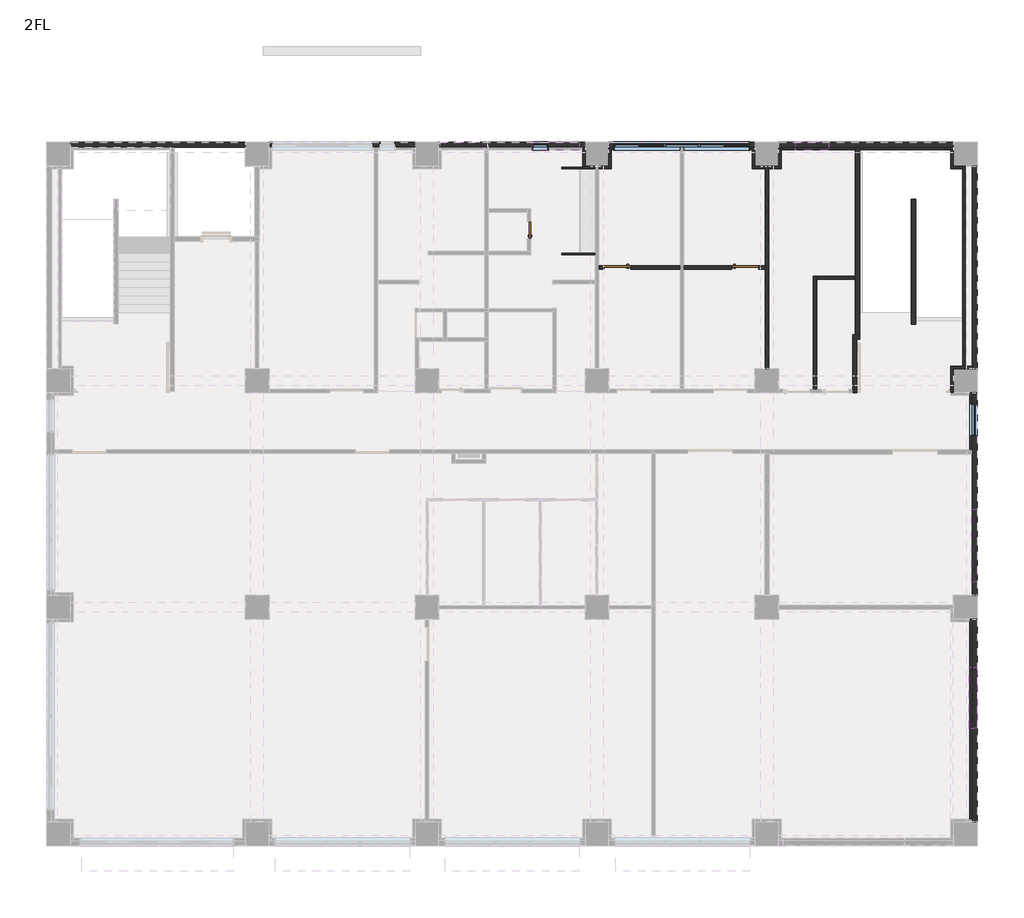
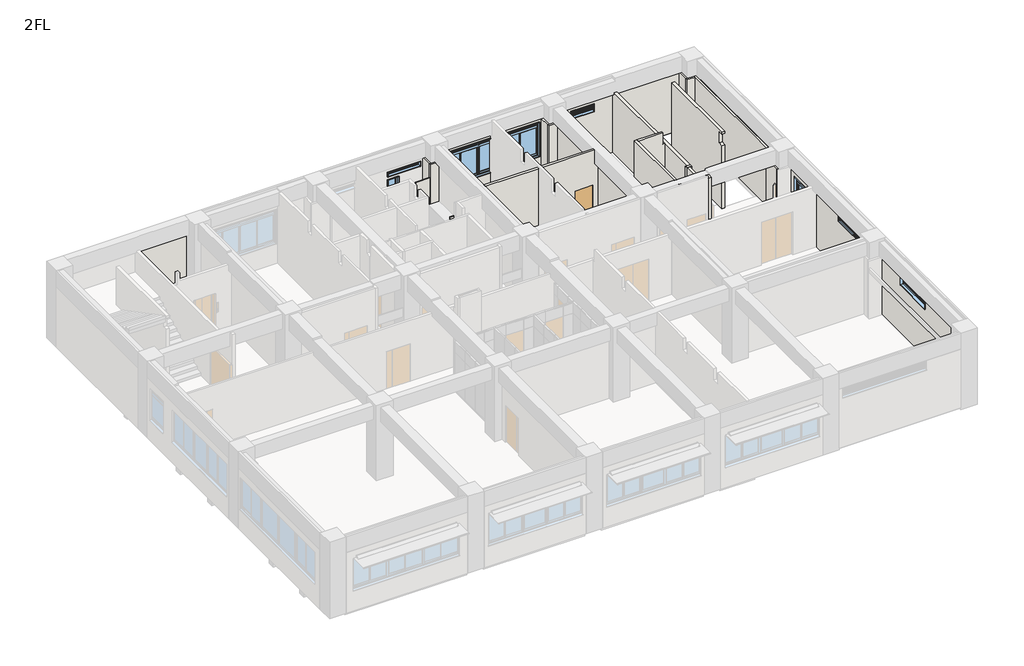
# One storey, part 4 of 7: 27 walls, 7 windows, 3 doors.
"""IFC4 building model written with IfcOpenShell, lengths in millimetres."""

from ifc_helpers import new_model, si_unit, frame, origin, place, context, project, spatial, polyline, outline, extrude, faceted_brep, transform, mapped, element, save
from components import door_0812e9ce, door_7e7a0efd, door_cb1f44da, ag_01_ca6aedc7, ag_04_25b0d088, ag_06_22dadb70, ag_07_7ad97628, aw4_ca96b354, aw6a_3e550bbd, aw7_c792b8a0

model = new_model("IFC4")

# Units and contexts
model_context = context("Model", 3, world=origin())
ifc_project = project(units=[si_unit("LENGTHUNIT", "METRE", prefix="MILLI")], contexts=[model_context])

# Site, building, storey
site = spatial("IfcSite", under=ifc_project)
building = spatial("IfcBuilding", under=site)
storey = spatial("IfcBuildingStorey", under=building, Name="2FL", Elevation=4100.0)

# Doors
placement = place(None, origin())
door_shape = door_0812e9ce(model_context)
element("IfcDoor", 1, ObjectType="営_片開き扉 : LD3 950*2000", at=placement, inside=storey, context=model_context, shape_type="MappedRepresentation", body=[
    mapped(door_shape, transform((19715.0, 20000.0, 4100.0), x_axis=(-1.0, 0.0, 0.0), y_axis=(0.0, -1.0, 0.0), z_axis=(0.0, 0.0, 1.0))),
])
door_2_shape = door_7e7a0efd(model_context)
element("IfcDoor", 2, ObjectType="営_片開き扉 : LD3 950*2000", at=placement, inside=storey, context=model_context, shape_type="MappedRepresentation", body=[
    mapped(door_2_shape, transform((24230.0, 20000.0, 4100.0), x_axis=(1.0, 0.0, 0.0), y_axis=(0.0, 1.0, 0.0), z_axis=(0.0, 0.0, 1.0))),
])
door_3_shape = door_cb1f44da(model_context)
element("IfcDoor", 3, ObjectType="営_片開き扉 : SD7 600*2000", at=placement, inside=storey, context=model_context, shape_type="MappedRepresentation", body=[
    mapped(door_3_shape, transform((16600.0, 21310.0, 4100.0), x_axis=(0.0, 1.0, 0.0), y_axis=(-1.0, 0.0, 0.0), z_axis=(0.0, 0.0, 1.0))),
])

# Walls
element("IfcWall", 4, ObjectType="(外壁)RC150+20", at=placement, inside=storey, context=model_context, shape_type="Brep", body=[
    faceted_brep([(420.0, 24250.0, 4000.0), (6580.0, 24250.0, 4000.0), (6580.0, 24250.0, 7250.0), (420.0, 24250.0, 7250.0), (6580.0, 24420.0, 4000.0), (420.0, 24420.0, 4000.0), (420.0, 24420.0, 7250.0), (6580.0, 24420.0, 7250.0)], [[[0, 1, 2, 3]], [[4, 5, 6, 7]], [[4, 1, 0, 5]], [[1, 4, 7, 2]], [[5, 0, 3, 6]], [[3, 2, 7, 6]]]),
    faceted_brep([(12580.0, 24250.0, 7250.0), (7420.0, 24250.0, 7250.0), (7420.0, 24250.0, 4000.0), (11200.0, 24250.0, 4000.0), (11200.0, 24250.0, 4090.0), (12580.0, 24250.0, 4090.0), (11310.0, 24250.0, 5165.0), (11310.0, 24250.0, 7020.0), (11890.0, 24250.0, 7020.0), (11890.0, 24250.0, 5165.0), (11090.0, 24250.0, 7020.0), (11090.0, 24250.0, 5165.0), (7510.0, 24250.0, 5165.0), (7510.0, 24250.0, 7020.0), (12580.0, 24420.0, 4000.0), (7420.0, 24420.0, 4000.0), (7420.0, 24420.0, 7250.0), (12580.0, 24420.0, 7250.0), (11340.0, 24420.0, 5075.0), (11860.0, 24420.0, 5075.0), (11860.0, 24420.0, 6995.0), (11340.0, 24420.0, 6995.0), (7540.0, 24420.0, 5075.0), (11060.0, 24420.0, 5075.0), (11060.0, 24420.0, 6995.0), (7540.0, 24420.0, 6995.0), (12580.0, 24335.0, 4000.0), (11200.0, 24335.0, 4000.0), (11310.0, 24260.0, 5165.0), (11310.0, 24260.0, 7020.0), (11890.0, 24260.0, 7020.0), (11890.0, 24260.0, 5165.0), (11880.0, 24260.0, 5165.0), (11320.0, 24260.0, 5165.0), (11320.0, 24260.0, 7015.0), (11880.0, 24260.0, 7015.0), (11320.0, 24260.0, 5095.0), (11320.0, 24360.0, 5082.5), (11320.0, 24360.0, 7015.0), (11880.0, 24260.0, 5095.0), (11880.0, 24360.0, 7015.0), (11880.0, 24360.0, 5082.5), (11860.0, 24360.0, 5082.5), (11340.0, 24360.0, 5082.5), (11340.0, 24360.0, 6995.0), (11860.0, 24360.0, 6995.0), (11090.0, 24260.0, 7020.0), (11090.0, 24260.0, 5165.0), (7510.0, 24260.0, 5165.0), (7510.0, 24260.0, 7020.0), (11080.0, 24260.0, 5165.0), (7520.0, 24260.0, 5165.0), (7520.0, 24260.0, 7015.0), (11080.0, 24260.0, 7015.0), (11080.0, 24360.0, 7015.0), (11080.0, 24360.0, 5082.5), (11080.0, 24260.0, 5095.0), (7520.0, 24260.0, 5095.0), (7520.0, 24360.0, 5082.5), (7520.0, 24360.0, 7015.0), (11060.0, 24360.0, 5082.5), (7540.0, 24360.0, 5082.5), (7540.0, 24360.0, 6995.0), (11060.0, 24360.0, 6995.0), (12580.0, 24335.0, 4090.0), (11200.0, 24335.0, 4090.0)], [[[0, 1, 2, 3, 4, 5], [6, 7, 8, 9], [10, 11, 12, 13]], [[14, 15, 16, 17], [18, 19, 20, 21], [22, 23, 24, 25]], [[2, 15, 14, 26, 27, 3]], [[28, 29, 7, 6]], [[30, 31, 9, 8]], [[32, 33, 28, 6, 9, 31]], [[29, 28, 33, 34, 35, 32, 31, 30]], [[29, 30, 8, 7]], [[34, 33, 36, 37, 38]], [[39, 32, 35, 40, 41]], [[39, 41, 42, 19, 18, 43, 37, 36]], [[38, 37, 43, 44, 45, 42, 41, 40]], [[34, 38, 40, 35]], [[32, 39, 36, 33]], [[44, 43, 18, 21]], [[19, 42, 45, 20]], [[44, 21, 20, 45]], [[46, 47, 11, 10]], [[48, 49, 13, 12]], [[11, 47, 50, 51, 48, 12]], [[47, 46, 49, 48, 51, 52, 53, 50]], [[46, 10, 13, 49]], [[50, 53, 54, 55, 56]], [[52, 51, 57, 58, 59]], [[56, 55, 60, 23, 22, 61, 58, 57]], [[55, 54, 59, 58, 61, 62, 63, 60]], [[53, 52, 59, 54]], [[51, 50, 56, 57]], [[23, 60, 63, 24]], [[61, 22, 25, 62]], [[63, 62, 25, 24]], [[15, 2, 1, 16]], [[14, 17, 0, 5, 64, 26]], [[1, 0, 17, 16]], [[4, 65, 64, 5]], [[65, 4, 3, 27]], [[64, 65, 27, 26]]]),
    faceted_brep([(18580.0, 24250.0, 7250.0), (13420.0, 24250.0, 7250.0), (13420.0, 24250.0, 4090.0), (18580.0, 24250.0, 4090.0), (18380.0, 24250.0, 7035.0), (18380.0, 24250.0, 6765.0), (16700.0, 24250.0, 6765.0), (16700.0, 24250.0, 7035.0), (15140.0, 24250.0, 7035.0), (15140.0, 24250.0, 6765.0), (13460.0, 24250.0, 6765.0), (13460.0, 24250.0, 7035.0), (16710.0, 24250.0, 5165.0), (16710.0, 24250.0, 6620.0), (17290.0, 24250.0, 6620.0), (17290.0, 24250.0, 5165.0), (18580.0, 24420.0, 4000.0), (13420.0, 24420.0, 4000.0), (13420.0, 24420.0, 7250.0), (18580.0, 24420.0, 7250.0), (16730.0, 24420.0, 6675.0), (18350.0, 24420.0, 6675.0), (18350.0, 24420.0, 7010.0), (16730.0, 24420.0, 7010.0), (13490.0, 24420.0, 6675.0), (15110.0, 24420.0, 6675.0), (15110.0, 24420.0, 7010.0), (13490.0, 24420.0, 7010.0), (16740.0, 24420.0, 5075.0), (17260.0, 24420.0, 5075.0), (17260.0, 24420.0, 6595.0), (16740.0, 24420.0, 6595.0), (18580.0, 24335.0, 4000.0), (13420.0, 24335.0, 4000.0), (18380.0, 24290.0, 7035.0), (18380.0, 24290.0, 6765.0), (16700.0, 24290.0, 6765.0), (16700.0, 24290.0, 7035.0), (18370.0, 24290.0, 6765.0), (16710.0, 24290.0, 6765.0), (16710.0, 24290.0, 7030.0), (18370.0, 24290.0, 7030.0), (18370.0, 24360.0, 7030.0), (18370.0, 24360.0, 6684.2307692), (18370.0, 24290.0, 6695.0), (16710.0, 24290.0, 6695.0), (16710.0, 24360.0, 6684.2307692), (16710.0, 24360.0, 7030.0), (18350.0, 24360.0, 6684.2307692), (16730.0, 24360.0, 6684.2307692), (16730.0, 24360.0, 7010.0), (18350.0, 24360.0, 7010.0), (15140.0, 24290.0, 7035.0), (15140.0, 24290.0, 6765.0), (13460.0, 24290.0, 6765.0), (13460.0, 24290.0, 7035.0), (15130.0, 24290.0, 6765.0), (13470.0, 24290.0, 6765.0), (13470.0, 24290.0, 7030.0), (15130.0, 24290.0, 7030.0), (15130.0, 24360.0, 7030.0), (15130.0, 24360.0, 6684.2307692), (15130.0, 24290.0, 6695.0), (13470.0, 24290.0, 6695.0), (13470.0, 24360.0, 6684.2307692), (13470.0, 24360.0, 7030.0), (15110.0, 24360.0, 6684.2307692), (13490.0, 24360.0, 6684.2307692), (13490.0, 24360.0, 7010.0), (15110.0, 24360.0, 7010.0), (16710.0, 24260.0, 5165.0), (16710.0, 24260.0, 6620.0), (17290.0, 24260.0, 6620.0), (17290.0, 24260.0, 5165.0), (17280.0, 24260.0, 5165.0), (16720.0, 24260.0, 5165.0), (16720.0, 24260.0, 6615.0), (17280.0, 24260.0, 6615.0), (16720.0, 24260.0, 5095.0), (16720.0, 24360.0, 5082.5), (16720.0, 24360.0, 6615.0), (17280.0, 24360.0, 6615.0), (17280.0, 24360.0, 5082.5), (17280.0, 24260.0, 5095.0), (17260.0, 24360.0, 5082.5), (16740.0, 24360.0, 5082.5), (16740.0, 24360.0, 6595.0), (17260.0, 24360.0, 6595.0), (13420.0, 24335.0, 4090.0), (18580.0, 24335.0, 4090.0)], [[[0, 1, 2, 3], [4, 5, 6, 7], [8, 9, 10, 11], [12, 13, 14, 15]], [[16, 17, 18, 19], [20, 21, 22, 23], [24, 25, 26, 27], [28, 29, 30, 31]], [[17, 16, 32, 33]], [[34, 35, 5, 4]], [[36, 37, 7, 6]], [[35, 38, 39, 36, 6, 5]], [[35, 34, 37, 36, 39, 40, 41, 38]], [[37, 34, 4, 7]], [[38, 41, 42, 43, 44]], [[40, 39, 45, 46, 47]], [[44, 43, 48, 21, 20, 49, 46, 45]], [[43, 42, 47, 46, 49, 50, 51, 48]], [[41, 40, 47, 42]], [[39, 38, 44, 45]], [[21, 48, 51, 22]], [[49, 20, 23, 50]], [[51, 50, 23, 22]], [[52, 53, 9, 8]], [[54, 55, 11, 10]], [[53, 56, 57, 54, 10, 9]], [[53, 52, 55, 54, 57, 58, 59, 56]], [[55, 52, 8, 11]], [[56, 59, 60, 61, 62]], [[58, 57, 63, 64, 65]], [[62, 61, 66, 25, 24, 67, 64, 63]], [[61, 60, 65, 64, 67, 68, 69, 66]], [[59, 58, 65, 60]], [[57, 56, 62, 63]], [[25, 66, 69, 26]], [[67, 24, 27, 68]], [[69, 68, 27, 26]], [[70, 71, 13, 12]], [[72, 73, 15, 14]], [[73, 74, 75, 70, 12, 15]], [[71, 70, 75, 76, 77, 74, 73, 72]], [[71, 72, 14, 13]], [[76, 75, 78, 79, 80]], [[74, 77, 81, 82, 83]], [[79, 78, 83, 82, 84, 29, 28, 85]], [[80, 79, 85, 86, 87, 84, 82, 81]], [[77, 76, 80, 81]], [[75, 74, 83, 78]], [[85, 28, 31, 86]], [[29, 84, 87, 30]], [[87, 86, 31, 30]], [[18, 17, 33, 88, 2, 1]], [[16, 19, 0, 3, 89, 32]], [[1, 0, 19, 18]], [[88, 89, 3, 2]], [[89, 88, 33, 32]]]),
    faceted_brep([(24580.0, 24250.0, 7250.0), (19420.0, 24250.0, 7250.0), (19420.0, 24250.0, 4090.0), (24580.0, 24250.0, 4090.0), (24410.0, 24250.0, 7020.0), (24410.0, 24250.0, 5165.0), (19590.0, 24250.0, 5165.0), (19590.0, 24250.0, 7020.0), (24580.0, 24420.0, 4000.0), (19420.0, 24420.0, 4000.0), (19420.0, 24420.0, 7250.0), (24580.0, 24420.0, 7250.0), (19620.0, 24420.0, 5075.0), (24380.0, 24420.0, 5075.0), (24380.0, 24420.0, 6995.0), (19620.0, 24420.0, 6995.0), (24580.0, 24335.0, 4000.0), (19420.0, 24335.0, 4000.0), (24410.0, 24260.0, 7020.0), (24410.0, 24260.0, 5165.0), (19590.0, 24260.0, 5165.0), (19590.0, 24260.0, 7020.0), (24400.0, 24260.0, 5165.0), (19600.0, 24260.0, 5165.0), (19600.0, 24260.0, 7015.0), (24400.0, 24260.0, 7015.0), (24400.0, 24360.0, 7015.0), (24400.0, 24360.0, 5082.5), (24400.0, 24260.0, 5095.0), (19600.0, 24260.0, 5095.0), (19600.0, 24360.0, 5082.5), (19600.0, 24360.0, 7015.0), (24380.0, 24360.0, 5082.5), (19620.0, 24360.0, 5082.5), (19620.0, 24360.0, 6995.0), (24380.0, 24360.0, 6995.0), (19420.0, 24335.0, 4090.0), (24580.0, 24335.0, 4090.0)], [[[0, 1, 2, 3], [4, 5, 6, 7]], [[8, 9, 10, 11], [12, 13, 14, 15]], [[9, 8, 16, 17]], [[18, 19, 5, 4]], [[20, 21, 7, 6]], [[5, 19, 22, 23, 20, 6]], [[19, 18, 21, 20, 23, 24, 25, 22]], [[18, 4, 7, 21]], [[22, 25, 26, 27, 28]], [[24, 23, 29, 30, 31]], [[28, 27, 32, 13, 12, 33, 30, 29]], [[27, 26, 31, 30, 33, 34, 35, 32]], [[25, 24, 31, 26]], [[23, 22, 28, 29]], [[13, 32, 35, 14]], [[33, 12, 15, 34]], [[35, 34, 15, 14]], [[10, 9, 17, 36, 2, 1]], [[8, 11, 0, 3, 37, 16]], [[1, 0, 11, 10]], [[36, 37, 3, 2]], [[37, 36, 17, 16]]]),
    faceted_brep([(31580.0, 24250.0, 7250.0), (25420.0, 24250.0, 7250.0), (25420.0, 24250.0, 4090.0), (28200.0, 24250.0, 4090.0), (28200.0, 24250.0, 4000.0), (31580.0, 24250.0, 4000.0), (27190.0, 24250.0, 7035.0), (27190.0, 24250.0, 6615.0), (26010.0, 24250.0, 6615.0), (26010.0, 24250.0, 7035.0), (31580.0, 24420.0, 4000.0), (25420.0, 24420.0, 4000.0), (25420.0, 24420.0, 7250.0), (31580.0, 24420.0, 7250.0), (26040.0, 24420.0, 6525.0), (27160.0, 24420.0, 6525.0), (27160.0, 24420.0, 7010.0), (26040.0, 24420.0, 7010.0), (28200.0, 24335.0, 4000.0), (25420.0, 24335.0, 4000.0), (27190.0, 24290.0, 7035.0), (27190.0, 24290.0, 6615.0), (26010.0, 24290.0, 6615.0), (26010.0, 24290.0, 7035.0), (27180.0, 24290.0, 6615.0), (26020.0, 24290.0, 6615.0), (26020.0, 24290.0, 7030.0), (27180.0, 24290.0, 7030.0), (27180.0, 24360.0, 7030.0), (27180.0, 24360.0, 6534.2307692), (27180.0, 24290.0, 6545.0), (26020.0, 24290.0, 6545.0), (26020.0, 24360.0, 6534.2307692), (26020.0, 24360.0, 7030.0), (27160.0, 24360.0, 6534.2307692), (26040.0, 24360.0, 6534.2307692), (26040.0, 24360.0, 7010.0), (27160.0, 24360.0, 7010.0), (25420.0, 24335.0, 4090.0), (28200.0, 24335.0, 4090.0)], [[[0, 1, 2, 3, 4, 5], [6, 7, 8, 9]], [[10, 11, 12, 13], [14, 15, 16, 17]], [[11, 10, 5, 4, 18, 19]], [[20, 21, 7, 6]], [[22, 23, 9, 8]], [[7, 21, 24, 25, 22, 8]], [[21, 20, 23, 22, 25, 26, 27, 24]], [[20, 6, 9, 23]], [[24, 27, 28, 29, 30]], [[26, 25, 31, 32, 33]], [[30, 29, 34, 15, 14, 35, 32, 31]], [[29, 28, 33, 32, 35, 36, 37, 34]], [[27, 26, 33, 28]], [[25, 24, 30, 31]], [[15, 34, 37, 16]], [[35, 14, 17, 36]], [[37, 36, 17, 16]], [[12, 11, 19, 38, 2, 1]], [[5, 10, 13, 0]], [[1, 0, 13, 12]], [[38, 39, 3, 2]], [[3, 39, 18, 4]], [[39, 38, 19, 18]]]),
])
element("IfcWall", 5, ObjectType="(外壁)RC150+20", at=placement, inside=storey, context=model_context, shape_type="Brep", body=[
    faceted_brep([(32250.0, 420.0, 7200.0), (32250.0, 7580.0, 7200.0), (32250.0, 7580.0, 4090.0), (32250.0, 420.0, 4090.0), (32250.0, 3710.0, 7185.0), (32250.0, 3710.0, 6665.0), (32250.0, 5890.0, 6665.0), (32250.0, 5890.0, 7185.0), (32420.0, 7580.0, 7200.0), (32420.0, 420.0, 7200.0), (32420.0, 420.0, 4000.0), (32420.0, 7580.0, 4000.0), (32420.0, 5860.0, 6575.0), (32420.0, 3740.0, 6575.0), (32420.0, 3740.0, 7160.0), (32420.0, 5860.0, 7160.0), (32325.0, 420.0, 4000.0), (32325.0, 7580.0, 4000.0), (32325.0, 420.0, 4090.0), (32325.0, 7580.0, 4090.0), (32290.0, 3710.0, 7185.0), (32290.0, 3710.0, 6665.0), (32290.0, 5890.0, 6665.0), (32290.0, 5890.0, 7185.0), (32290.0, 3720.0, 6665.0), (32290.0, 5880.0, 6665.0), (32290.0, 5880.0, 7180.0), (32290.0, 3720.0, 7180.0), (32360.0, 3720.0, 7180.0), (32360.0, 3720.0, 6584.2307692), (32290.0, 3720.0, 6595.0), (32290.0, 5880.0, 6595.0), (32360.0, 5880.0, 6584.2307692), (32360.0, 5880.0, 7180.0), (32360.0, 3740.0, 6584.2307692), (32360.0, 5860.0, 6584.2307692), (32360.0, 5860.0, 7160.0), (32360.0, 3740.0, 7160.0)], [[[0, 1, 2, 3], [4, 5, 6, 7]], [[8, 9, 10, 11], [12, 13, 14, 15]], [[11, 10, 16, 17]], [[10, 9, 0, 3, 18, 16]], [[8, 11, 17, 19, 2, 1]], [[1, 0, 9, 8]], [[19, 18, 3, 2]], [[18, 19, 17, 16]], [[20, 21, 5, 4]], [[22, 23, 7, 6]], [[5, 21, 24, 25, 22, 6]], [[21, 20, 23, 22, 25, 26, 27, 24]], [[20, 4, 7, 23]], [[24, 27, 28, 29, 30]], [[26, 25, 31, 32, 33]], [[30, 29, 34, 13, 12, 35, 32, 31]], [[29, 28, 33, 32, 35, 36, 37, 34]], [[27, 26, 33, 28]], [[25, 24, 30, 31]], [[13, 34, 37, 14]], [[35, 12, 15, 36]], [[37, 36, 15, 14]]]),
    faceted_brep([(32250.0, 8420.0, 7200.0), (32250.0, 15580.0, 7200.0), (32250.0, 15580.0, 4090.0), (32250.0, 8420.0, 4090.0), (32250.0, 14027.5, 6820.0), (32250.0, 14027.5, 5165.0), (32250.0, 15207.5, 5165.0), (32250.0, 15207.5, 6820.0), (32250.0, 8890.0, 7185.0), (32250.0, 8890.0, 6665.0), (32250.0, 11470.0, 6665.0), (32250.0, 11470.0, 7185.0), (32420.0, 15580.0, 7200.0), (32420.0, 8420.0, 7200.0), (32420.0, 8420.0, 4000.0), (32420.0, 15580.0, 4000.0), (32420.0, 15177.5, 5075.0), (32420.0, 14057.5, 5075.0), (32420.0, 14057.5, 6795.0), (32420.0, 15177.5, 6795.0), (32420.0, 11440.0, 6575.0), (32420.0, 8920.0, 6575.0), (32420.0, 8920.0, 7160.0), (32420.0, 11440.0, 7160.0), (32325.0, 8420.0, 4000.0), (32325.0, 15580.0, 4000.0), (32260.0, 14027.5, 6820.0), (32260.0, 14027.5, 5165.0), (32260.0, 15207.5, 5165.0), (32260.0, 15207.5, 6820.0), (32260.0, 14037.5, 5165.0), (32260.0, 15197.5, 5165.0), (32260.0, 15197.5, 6815.0), (32260.0, 14037.5, 6815.0), (32360.0, 14037.5, 6815.0), (32360.0, 14037.5, 5082.5), (32260.0, 14037.5, 5095.0), (32260.0, 15197.5, 5095.0), (32360.0, 15197.5, 5082.5), (32360.0, 15197.5, 6815.0), (32360.0, 14057.5, 5082.5), (32360.0, 15177.5, 5082.5), (32360.0, 15177.5, 6795.0), (32360.0, 14057.5, 6795.0), (32325.0, 8420.0, 4090.0), (32325.0, 15580.0, 4090.0), (32290.0, 8890.0, 7185.0), (32290.0, 8890.0, 6665.0), (32290.0, 11470.0, 6665.0), (32290.0, 11470.0, 7185.0), (32290.0, 8900.0, 6665.0), (32290.0, 11460.0, 6665.0), (32290.0, 11460.0, 7180.0), (32290.0, 8900.0, 7180.0), (32360.0, 8900.0, 7180.0), (32360.0, 8900.0, 6584.2307692), (32290.0, 8900.0, 6595.0), (32290.0, 11460.0, 6595.0), (32360.0, 11460.0, 6584.2307692), (32360.0, 11460.0, 7180.0), (32360.0, 8920.0, 6584.2307692), (32360.0, 11440.0, 6584.2307692), (32360.0, 11440.0, 7160.0), (32360.0, 8920.0, 7160.0)], [[[0, 1, 2, 3], [4, 5, 6, 7], [8, 9, 10, 11]], [[12, 13, 14, 15], [16, 17, 18, 19], [20, 21, 22, 23]], [[15, 14, 24, 25]], [[26, 27, 5, 4]], [[28, 29, 7, 6]], [[5, 27, 30, 31, 28, 6]], [[27, 26, 29, 28, 31, 32, 33, 30]], [[26, 4, 7, 29]], [[30, 33, 34, 35, 36]], [[32, 31, 37, 38, 39]], [[36, 35, 40, 17, 16, 41, 38, 37]], [[35, 34, 39, 38, 41, 42, 43, 40]], [[33, 32, 39, 34]], [[31, 30, 36, 37]], [[17, 40, 43, 18]], [[41, 16, 19, 42]], [[43, 42, 19, 18]], [[14, 13, 0, 3, 44, 24]], [[12, 15, 25, 45, 2, 1]], [[1, 0, 13, 12]], [[45, 44, 3, 2]], [[44, 45, 25, 24]], [[46, 47, 9, 8]], [[48, 49, 11, 10]], [[9, 47, 50, 51, 48, 10]], [[47, 46, 49, 48, 51, 52, 53, 50]], [[46, 8, 11, 49]], [[50, 53, 54, 55, 56]], [[52, 51, 57, 58, 59]], [[56, 55, 60, 21, 20, 61, 58, 57]], [[55, 54, 59, 58, 61, 62, 63, 60]], [[53, 52, 59, 54]], [[51, 50, 56, 57]], [[21, 60, 63, 22]], [[61, 20, 23, 62]], [[63, 62, 23, 22]]]),
    faceted_brep([(32250.0, 16420.0, 7200.0), (32250.0, 23580.0, 7200.0), (32250.0, 23580.0, 4090.0), (32250.0, 16420.0, 4090.0), (32420.0, 23580.0, 7200.0), (32420.0, 16420.0, 7200.0), (32420.0, 16420.0, 4000.0), (32420.0, 23580.0, 4000.0), (32325.0, 16420.0, 4000.0), (32325.0, 16669.8819845, 4000.0), (32325.0, 23580.0, 4000.0), (32325.0, 16420.0, 4090.0), (32325.0, 23580.0, 4090.0), (32325.0, 16669.8819845, 4090.0)], [[[0, 1, 2, 3]], [[4, 5, 6, 7]], [[7, 6, 8, 9, 10]], [[6, 5, 0, 3, 11, 8]], [[4, 7, 10, 12, 2, 1]], [[1, 0, 5, 4]], [[12, 13, 11, 3, 2]], [[11, 13, 9, 8]], [[13, 12, 10, 9]]]),
])
element("IfcWall", 6, ObjectType="(内壁)W3", at=placement, inside=storey, context=model_context, shape_type="Brep", body=[
    faceted_brep([(25060.0, 16420.0, 4100.0), (25060.0, 23490.0, 4100.0), (25060.0, 23580.0, 4100.0), (25060.0, 23580.0, 7200.0), (25060.0, 23490.0, 7200.0), (25060.0, 16420.0, 7200.0), (24940.0, 23580.0, 4100.0), (24940.0, 23490.0, 4100.0), (24940.0, 20060.0, 4100.0), (24940.0, 19940.0, 4100.0), (24940.0, 16420.0, 4100.0), (24940.0, 16420.0, 7200.0), (24940.0, 19940.0, 7200.0), (24940.0, 20060.0, 7200.0), (24940.0, 23490.0, 7200.0), (24940.0, 23580.0, 7200.0)], [[[0, 1, 2, 3, 4, 5]], [[6, 7, 8, 9, 10, 11, 12, 13, 14, 15]], [[0, 10, 9, 8, 7, 6, 2, 1]], [[10, 0, 5, 11]], [[2, 6, 15, 3]], [[5, 4, 3, 15, 14, 13, 12, 11]]]),
])
element("IfcWall", 7, ObjectType="(内壁)W3", at=placement, inside=storey, context=model_context, shape_type="SweptSolid", body=[
    extrude(outline(polyline([(4100.0, 21940.0), (7950.0, 21940.0), (7950.0, 19225.0), (7200.0, 19225.0), (7200.0, 19060.0), (4100.0, 19060.0), (4100.0, 19240.0), (6100.0, 19240.0), (6100.0, 20190.0), (4100.0, 20190.0), (4100.0, 21940.0)])), frame((0.0, 19940.0, 0.0), z_axis=(0.0, 1.0, 0.0), x_axis=(0.0, 0.0, 1.0)), (0.0, 0.0, 1.0), 120.0),
    extrude(outline(polyline([(7950.0, 22060.0), (4100.0, 22060.0), (4100.0, 23755.0), (6100.0, 23755.0), (6100.0, 24705.0), (4100.0, 24705.0), (4100.0, 24940.0), (7200.0, 24940.0), (7200.0, 24775.0), (7950.0, 24775.0), (7950.0, 22060.0)])), frame((0.0, 19940.0, 0.0), z_axis=(0.0, 1.0, 0.0), x_axis=(0.0, 0.0, 1.0)), (0.0, 0.0, 1.0), 120.0),
])
element("IfcWall", 8, ObjectType="(内壁)W3", at=placement, inside=storey, context=model_context, shape_type="Brep", body=[
    faceted_brep([(26640.0, 19695.0, 4100.0), (26640.0, 15700.0, 4100.0), (26640.0, 15700.0, 7950.0), (26640.0, 15825.0, 7950.0), (26640.0, 15825.0, 7250.0), (26640.0, 16175.0, 7250.0), (26640.0, 16175.0, 7950.0), (26640.0, 19695.0, 7950.0), (26760.0, 15700.0, 4100.0), (26760.0, 19575.0, 4100.0), (26760.0, 19695.0, 4100.0), (26760.0, 19695.0, 7950.0), (26760.0, 19575.0, 7950.0), (26760.0, 16175.0, 7950.0), (26760.0, 16175.0, 7250.0), (26760.0, 15825.0, 7250.0), (26760.0, 15825.0, 7950.0), (26760.0, 15700.0, 7950.0)], [[[0, 1, 2, 3, 4, 5, 6, 7]], [[8, 9, 10, 11, 12, 13, 14, 15, 16, 17]], [[1, 0, 10, 9, 8]], [[11, 7, 6, 13, 12]], [[2, 17, 16, 3]], [[0, 7, 11, 10]], [[2, 1, 8, 17]], [[15, 4, 3, 16]], [[4, 15, 14, 5]], [[5, 14, 13, 6]]]),
])
element("IfcWall", 9, ObjectType="(内壁)W3", at=placement, inside=storey, context=model_context, shape_type="SweptSolid", body=[
    extrude(outline(polyline([(4100.0, 26760.0), (4100.0, 28125.0), (7350.0, 28125.0), (7350.0, 28024.0), (7950.0, 28024.0), (7950.0, 26760.0), (4100.0, 26760.0)])), frame((0.0, 19575.0, 0.0), z_axis=(0.0, 1.0, 0.0), x_axis=(0.0, 0.0, 1.0)), (0.0, 0.0, 1.0), 120.0),
])
element("IfcWall", 10, ObjectType="(内壁)150_RC", at=placement, inside=storey, context=model_context, shape_type="Brep", body=[
    faceted_brep([(28175.0, 15580.0, 4100.0), (28175.0, 17465.0, 4100.0), (28175.0, 17465.0, 7350.0), (28175.0, 16175.0, 7350.0), (28175.0, 16175.0, 7250.0), (28175.0, 15825.0, 7250.0), (28175.0, 15825.0, 7350.0), (28175.0, 15825.0, 7950.0), (28175.0, 15580.0, 7950.0), (28025.0, 17465.0, 4100.0), (28025.0, 15700.0, 4100.0), (28025.0, 15580.0, 4100.0), (28025.0, 15580.0, 7950.0), (28025.0, 15825.0, 7950.0), (28025.0, 15825.0, 7350.0), (28025.0, 15825.0, 7250.0), (28025.0, 16175.0, 7250.0), (28025.0, 16175.0, 7350.0), (28025.0, 17465.0, 7350.0)], [[[0, 1, 2, 3, 4, 5, 6, 7, 8]], [[9, 10, 11, 12, 13, 14, 15, 16, 17, 18]], [[1, 0, 11, 10, 9]], [[8, 7, 13, 12]], [[1, 9, 18, 2]], [[5, 15, 14, 13, 7, 6]], [[15, 5, 4, 16]], [[16, 4, 3, 17]], [[3, 2, 18, 17]], [[0, 8, 12, 11]]]),
])
element("IfcWall", 11, ObjectType="(内壁)150_RC", at=placement, inside=storey, context=model_context, shape_type="Brep", body=[
    faceted_brep([(28025.0, 17465.0, 4100.0), (28175.0, 17465.0, 4100.0), (28275.0, 17465.0, 4100.0), (28275.0, 17465.0, 7350.0), (28175.0, 17465.0, 7350.0), (28025.0, 17465.0, 7350.0), (28275.0, 17615.0, 4100.0), (28125.0, 17615.0, 4100.0), (28025.0, 17615.0, 4100.0), (28025.0, 17615.0, 7350.0), (28125.0, 17615.0, 7350.0), (28275.0, 17615.0, 7350.0)], [[[0, 1, 2, 3, 4, 5]], [[6, 7, 8, 9, 10, 11]], [[2, 1, 0, 8, 7, 6]], [[8, 0, 5, 9]], [[2, 6, 11, 3]], [[5, 4, 3, 11, 10, 9]]]),
])
element("IfcWall", 12, ObjectType="(内壁)150_RC", at=placement, inside=storey, context=model_context, shape_type="Brep", body=[
    faceted_brep([(28275.0, 17615.0, 4100.0), (28275.0, 24250.0, 4100.0), (28275.0, 24250.0, 7250.0), (28275.0, 24050.0, 7250.0), (28275.0, 24050.0, 7350.0), (28275.0, 17615.0, 7350.0), (28125.0, 24250.0, 4100.0), (28125.0, 19695.0, 4100.0), (28125.0, 19575.0, 4100.0), (28125.0, 17615.0, 4100.0), (28125.0, 17615.0, 7350.0), (28125.0, 19575.0, 7350.0), (28125.0, 19695.0, 7350.0), (28125.0, 24050.0, 7350.0), (28125.0, 24050.0, 7250.0), (28125.0, 24250.0, 7250.0)], [[[0, 1, 2, 3, 4, 5]], [[6, 7, 8, 9, 10, 11, 12, 13, 14, 15]], [[1, 0, 9, 8, 7, 6]], [[10, 5, 4, 13, 12, 11]], [[0, 5, 10, 9]], [[1, 6, 15, 2]], [[3, 14, 13, 4]], [[14, 3, 2, 15]]]),
])
element("IfcWall", 13, ObjectType="(内壁)150_RC", at=placement, inside=storey, context=model_context, shape_type="Brep", body=[
    faceted_brep([(30105.0, 22410.0, 4100.0), (30105.0, 18000.0, 4100.0), (30105.0, 18000.0, 7500.0), (30105.0, 18225.0, 7500.0), (30105.0, 18225.0, 8040.0), (30105.0, 18225.0, 8100.0), (30105.0, 18005.0, 8100.0), (30105.0, 18000.0, 8100.0), (30105.0, 18000.0, 8200.0), (30105.0, 22410.0, 8200.0), (30255.0, 18000.0, 4100.0), (30255.0, 22410.0, 4100.0), (30255.0, 22410.0, 8200.0), (30255.0, 18000.0, 8200.0), (30255.0, 18000.0, 8100.0), (30255.0, 18005.0, 8100.0), (30255.0, 18100.0, 8100.0), (30255.0, 18225.0, 8100.0), (30255.0, 18225.0, 7500.0), (30255.0, 18000.0, 7500.0)], [[[0, 1, 2, 3, 4, 5, 6, 7, 8, 9]], [[10, 11, 12, 13, 14, 15, 16, 17, 18, 19]], [[1, 0, 11, 10]], [[1, 10, 19, 2]], [[13, 8, 7, 14]], [[9, 8, 13, 12]], [[0, 9, 12, 11]], [[18, 3, 2, 19]], [[3, 18, 17, 5, 4]], [[5, 17, 16, 15, 14, 7, 6]]]),
])
element("IfcWall", 14, ObjectType="(内壁)ブース壁", at=placement, inside=storey, context=model_context, shape_type="SweptSolid", body=[
    extrude(outline(polyline([(17760.0, 20500.0), (18940.0, 20500.0), (18940.0, 20450.0), (17760.0, 20450.0), (17760.0, 20500.0)])), frame((0.0, 0.0, 4100.0), z_axis=(0.0, 0.0, 1.0), x_axis=(1.0, 0.0, 0.0)), (0.0, 0.0, 1.0), 2400.0),
])
element("IfcWall", 15, ObjectType="(内壁)ブース壁", at=placement, inside=storey, context=model_context, shape_type="SweptSolid", body=[
    extrude(outline(polyline([(17750.0, 23540.0), (18490.0, 23540.0), (18490.0, 23490.0), (17750.0, 23490.0), (17750.0, 23540.0)])), frame((0.0, 0.0, 4100.0), z_axis=(0.0, 0.0, 1.0), x_axis=(1.0, 0.0, 0.0)), (0.0, 0.0, 1.0), 2400.0),
])
element("IfcWall", 16, ObjectType="(内壁)W5", at=placement, inside=storey, context=model_context, shape_type="Brep", body=[
    faceted_brep([(32250.0, 13560.0, 4100.0), (32250.0, 15580.0, 4100.0), (32250.0, 15580.0, 7200.0), (32250.0, 13560.0, 7200.0), (32250.0, 14027.5, 5165.0), (32250.0, 14027.5, 6820.0), (32250.0, 15207.5, 6820.0), (32250.0, 15207.5, 5165.0), (32160.0, 15580.0, 4100.0), (32160.0, 15490.0, 4100.0), (32160.0, 13560.0, 4100.0), (32160.0, 13560.0, 7200.0), (32160.0, 15490.0, 7200.0), (32160.0, 15580.0, 7200.0), (32160.0, 14027.5, 6820.0), (32160.0, 14027.5, 5165.0), (32160.0, 15207.5, 5165.0), (32160.0, 15207.5, 6820.0)], [[[0, 1, 2, 3], [4, 5, 6, 7]], [[8, 9, 10, 11, 12, 13], [14, 15, 16, 17]], [[1, 0, 10, 9, 8]], [[3, 2, 13, 12, 11]], [[0, 3, 11, 10]], [[2, 1, 8, 13]], [[14, 5, 4, 15]], [[16, 7, 6, 17]], [[15, 4, 7, 16]], [[5, 14, 17, 6]]]),
])
element("IfcWall", 17, ObjectType="(内壁)W5", at=placement, inside=storey, context=model_context, shape_type="Brep", body=[
    faceted_brep([(31580.0, 15580.0, 4100.0), (31580.0, 16420.0, 4100.0), (31580.0, 16510.0, 4100.0), (31580.0, 16510.0, 7200.0), (31580.0, 16420.0, 7200.0), (31580.0, 15580.0, 7200.0), (31490.0, 15580.0, 4100.0), (31490.0, 15580.0, 7200.0), (31490.0, 16510.0, 7200.0), (31490.0, 16510.0, 4100.0)], [[[0, 1, 2, 3, 4, 5]], [[6, 7, 8, 9]], [[2, 1, 0, 6, 9]], [[5, 4, 3, 8, 7]], [[0, 5, 7, 6]], [[3, 2, 9, 8]]]),
])
element("IfcWall", 18, ObjectType="(内壁)W5", at=placement, inside=storey, context=model_context, shape_type="Brep", body=[
    faceted_brep([(31580.0, 16420.0, 4100.0), (32250.0, 16420.0, 4100.0), (32250.0, 16420.0, 7200.0), (31580.0, 16420.0, 7200.0), (31580.0, 16510.0, 4100.0), (31580.0, 16510.0, 7200.0), (31919.7329181, 16510.0, 7200.0), (32009.7329181, 16510.0, 7200.0), (32250.0, 16510.0, 7200.0), (32250.0, 16510.0, 4100.0), (32009.7329181, 16510.0, 4100.0), (31919.7329181, 16510.0, 4100.0)], [[[0, 1, 2, 3]], [[4, 5, 6, 7, 8, 9, 10, 11]], [[1, 0, 4, 11, 10, 9]], [[3, 2, 8, 7, 6, 5]], [[0, 3, 5, 4]], [[2, 1, 9, 8]]]),
])
element("IfcWall", 19, ObjectType="(内壁)W5", at=placement, inside=storey, context=model_context, shape_type="Brep", body=[
    faceted_brep([(32009.7329181, 16510.0, 4100.0), (32009.7329181, 23580.0, 4100.0), (32009.7329181, 23580.0, 7200.0), (32009.7329181, 16510.0, 7200.0), (31919.7329181, 16510.0, 4100.0), (31919.7329181, 16510.0, 7200.0), (31919.7329181, 23490.0, 7200.0), (31919.7329181, 23580.0, 7200.0), (31919.7329181, 23580.0, 4100.0), (31919.7329181, 23490.0, 4100.0)], [[[0, 1, 2, 3]], [[4, 5, 6, 7, 8, 9]], [[1, 0, 4, 9, 8]], [[3, 2, 7, 6, 5]], [[0, 3, 5, 4]], [[2, 1, 8, 7]]]),
])
element("IfcWall", 20, ObjectType="(内壁)W5", at=placement, inside=storey, context=model_context, shape_type="Brep", body=[
    faceted_brep([(31919.7329181, 23580.0, 4100.0), (31580.0, 23580.0, 4100.0), (31490.0, 23580.0, 4100.0), (31490.0, 23580.0, 7200.0), (31580.0, 23580.0, 7200.0), (31919.7329181, 23580.0, 7200.0), (31919.7329181, 23490.0, 4100.0), (31919.7329181, 23490.0, 7200.0), (31490.0, 23490.0, 7200.0), (31490.0, 23490.0, 4100.0)], [[[0, 1, 2, 3, 4, 5]], [[6, 7, 8, 9]], [[2, 1, 0, 6, 9]], [[5, 4, 3, 8, 7]], [[0, 5, 7, 6]], [[3, 2, 9, 8]]]),
])
element("IfcWall", 21, ObjectType="(内壁)W5", at=placement, inside=storey, context=model_context, shape_type="Brep", body=[
    faceted_brep([(31580.0, 23580.0, 4100.0), (31580.0, 24250.0, 4100.0), (31580.0, 24250.0, 7200.0), (31580.0, 23580.0, 7200.0), (31490.0, 23580.0, 4100.0), (31490.0, 23580.0, 7200.0), (31490.0, 24250.0, 7200.0), (31490.0, 24250.0, 4100.0), (31490.0, 24160.0, 4100.0)], [[[0, 1, 2, 3]], [[4, 5, 6, 7, 8]], [[1, 0, 4, 8, 7]], [[3, 2, 6, 5]], [[0, 3, 5, 4]], [[2, 1, 7, 6]]]),
])
element("IfcWall", 22, ObjectType="(内壁)W5", at=placement, inside=storey, context=model_context, shape_type="Brep", body=[
    faceted_brep([(31490.0, 24250.0, 4100.0), (25420.0, 24250.0, 4100.0), (25420.0, 24250.0, 7250.0), (31490.0, 24250.0, 7250.0), (31490.0, 24250.0, 7200.0), (27190.0, 24250.0, 6615.0), (27190.0, 24250.0, 7035.0), (26010.0, 24250.0, 7035.0), (26010.0, 24250.0, 6615.0), (25420.0, 24160.0, 4100.0), (25510.0, 24160.0, 4100.0), (31490.0, 24160.0, 4100.0), (31490.0, 24160.0, 7250.0), (25420.0, 24160.0, 7250.0), (25420.0, 24160.0, 7200.0), (27190.0, 24160.0, 7035.0), (27190.0, 24160.0, 6615.0), (26010.0, 24160.0, 6615.0), (26010.0, 24160.0, 7035.0)], [[[0, 1, 2, 3, 4], [5, 6, 7, 8]], [[9, 10, 11, 12, 13, 14], [15, 16, 17, 18]], [[1, 0, 11, 10, 9]], [[3, 2, 13, 12]], [[0, 4, 3, 12, 11]], [[2, 1, 9, 14, 13]], [[15, 6, 5, 16]], [[17, 8, 7, 18]], [[16, 5, 8, 17]], [[6, 15, 18, 7]]]),
])
element("IfcWall", 23, ObjectType="(内壁)W5", at=placement, inside=storey, context=model_context, shape_type="Brep", body=[
    faceted_brep([(25420.0, 24160.0, 4100.0), (25420.0, 23580.0, 4100.0), (25420.0, 23490.0, 4100.0), (25420.0, 23490.0, 7200.0), (25420.0, 23580.0, 7200.0), (25420.0, 24160.0, 7200.0), (25510.0, 24160.0, 4100.0), (25510.0, 24160.0, 7200.0), (25510.0, 23490.0, 7200.0), (25510.0, 23490.0, 4100.0)], [[[0, 1, 2, 3, 4, 5]], [[6, 7, 8, 9]], [[2, 1, 0, 6, 9]], [[5, 4, 3, 8, 7]], [[0, 5, 7, 6]], [[3, 2, 9, 8]]]),
])
element("IfcWall", 24, ObjectType="(内壁)W5", at=placement, inside=storey, context=model_context, shape_type="Brep", body=[
    faceted_brep([(25420.0, 23580.0, 7200.0), (25420.0, 23580.0, 4100.0), (25060.0, 23580.0, 4100.0), (25060.0, 23580.0, 7200.0), (25420.0, 23490.0, 4100.0), (25420.0, 23490.0, 7200.0), (25060.0, 23490.0, 7200.0), (25060.0, 23490.0, 4100.0)], [[[0, 1, 2, 3]], [[4, 5, 6, 7]], [[1, 4, 7, 2]], [[5, 0, 3, 6]], [[1, 0, 5, 4]], [[3, 2, 7, 6]]]),
    faceted_brep([(24490.0, 23580.0, 4100.0), (24490.0, 23580.0, 7200.0), (24580.0, 23580.0, 7200.0), (24940.0, 23580.0, 7200.0), (24940.0, 23580.0, 4100.0), (24580.0, 23580.0, 4100.0), (24490.0, 23490.0, 7200.0), (24490.0, 23490.0, 4100.0), (24940.0, 23490.0, 4100.0), (24940.0, 23490.0, 7200.0)], [[[0, 1, 2, 3, 4, 5]], [[6, 7, 8, 9]], [[7, 0, 5, 4, 8]], [[1, 6, 9, 3, 2]], [[1, 0, 7, 6]], [[4, 3, 9, 8]]]),
])
element("IfcWall", 25, ObjectType="(内壁)W5", at=placement, inside=storey, context=model_context, shape_type="Brep", body=[
    faceted_brep([(24580.0, 23580.0, 4100.0), (24580.0, 24250.0, 4100.0), (24580.0, 24250.0, 7200.0), (24580.0, 23580.0, 7200.0), (24490.0, 23580.0, 4100.0), (24490.0, 23580.0, 7200.0), (24490.0, 24160.0, 7200.0), (24490.0, 24250.0, 7200.0), (24490.0, 24250.0, 4100.0), (24490.0, 24160.0, 4100.0)], [[[0, 1, 2, 3]], [[4, 5, 6, 7, 8, 9]], [[1, 0, 4, 9, 8]], [[3, 2, 7, 6, 5]], [[0, 3, 5, 4]], [[2, 1, 8, 7]]]),
])
element("IfcWall", 26, ObjectType="(内壁)W5", at=placement, inside=storey, context=model_context, shape_type="Brep", body=[
    faceted_brep([(24490.0, 24250.0, 4100.0), (19420.0, 24250.0, 4100.0), (19420.0, 24250.0, 7200.0), (24490.0, 24250.0, 7200.0), (24410.0, 24250.0, 5165.0), (24410.0, 24250.0, 7020.0), (19590.0, 24250.0, 7020.0), (19590.0, 24250.0, 5165.0), (19420.0, 24160.0, 4100.0), (19510.0, 24160.0, 4100.0), (24490.0, 24160.0, 4100.0), (24490.0, 24160.0, 7200.0), (19510.0, 24160.0, 7200.0), (19420.0, 24160.0, 7200.0), (24410.0, 24160.0, 7020.0), (24410.0, 24160.0, 5165.0), (19590.0, 24160.0, 5165.0), (19590.0, 24160.0, 7020.0)], [[[0, 1, 2, 3], [4, 5, 6, 7]], [[8, 9, 10, 11, 12, 13], [14, 15, 16, 17]], [[1, 0, 10, 9, 8]], [[3, 2, 13, 12, 11]], [[0, 3, 11, 10]], [[2, 1, 8, 13]], [[14, 5, 4, 15]], [[16, 7, 6, 17]], [[15, 4, 7, 16]], [[5, 14, 17, 6]]]),
])
element("IfcWall", 27, ObjectType="(内壁)W5", at=placement, inside=storey, context=model_context, shape_type="Brep", body=[
    faceted_brep([(19420.0, 24160.0, 4100.0), (19420.0, 23580.0, 4100.0), (19420.0, 23490.0, 4100.0), (19420.0, 23490.0, 7200.0), (19420.0, 23580.0, 7200.0), (19420.0, 24160.0, 7200.0), (19510.0, 24160.0, 4100.0), (19510.0, 24160.0, 7200.0), (19510.0, 23490.0, 7200.0), (19510.0, 23490.0, 4100.0)], [[[0, 1, 2, 3, 4, 5]], [[6, 7, 8, 9]], [[2, 1, 0, 6, 9]], [[5, 4, 3, 8, 7]], [[0, 5, 7, 6]], [[3, 2, 9, 8]]]),
])
element("IfcWall", 28, ObjectType="(内壁)W5", at=placement, inside=storey, context=model_context, shape_type="Brep", body=[
    faceted_brep([(19420.0, 23580.0, 7200.0), (19420.0, 23580.0, 4100.0), (19060.0, 23580.0, 4100.0), (19060.0, 23580.0, 7200.0), (19420.0, 23490.0, 4100.0), (19420.0, 23490.0, 7200.0), (19060.0, 23490.0, 7200.0), (19060.0, 23490.0, 4100.0)], [[[0, 1, 2, 3]], [[4, 5, 6, 7]], [[1, 4, 7, 2]], [[5, 0, 3, 6]], [[1, 0, 5, 4]], [[3, 2, 7, 6]]]),
    faceted_brep([(18490.0, 23580.0, 4100.0), (18490.0, 23580.0, 7200.0), (18580.0, 23580.0, 7200.0), (18940.0, 23580.0, 7200.0), (18940.0, 23580.0, 4100.0), (18580.0, 23580.0, 4100.0), (18490.0, 23490.0, 7200.0), (18490.0, 23490.0, 4100.0), (18940.0, 23490.0, 4100.0), (18940.0, 23490.0, 7200.0)], [[[0, 1, 2, 3, 4, 5]], [[6, 7, 8, 9]], [[7, 0, 5, 4, 8]], [[1, 6, 9, 3, 2]], [[1, 0, 7, 6]], [[4, 3, 9, 8]]]),
])
element("IfcWall", 29, ObjectType="(内壁)W5", at=placement, inside=storey, context=model_context, shape_type="Brep", body=[
    faceted_brep([(18580.0, 23580.0, 4100.0), (18580.0, 24250.0, 4100.0), (18580.0, 24250.0, 7200.0), (18580.0, 23580.0, 7200.0), (18490.0, 23580.0, 4100.0), (18490.0, 23580.0, 7200.0), (18490.0, 24160.0, 7200.0), (18490.0, 24250.0, 7200.0), (18490.0, 24250.0, 4100.0), (18490.0, 24160.0, 4100.0)], [[[0, 1, 2, 3]], [[4, 5, 6, 7, 8, 9]], [[1, 0, 4, 9, 8]], [[3, 2, 7, 6, 5]], [[0, 3, 5, 4]], [[2, 1, 8, 7]]]),
])
element("IfcWall", 30, ObjectType="(内壁)W5", at=placement, inside=storey, context=model_context, shape_type="Brep", body=[
    faceted_brep([(32250.0, 510.0, 4090.0), (32250.0, 7580.0, 4090.0), (32250.0, 7580.0, 7200.0), (32250.0, 510.0, 7200.0), (32250.0, 3710.0, 6665.0), (32250.0, 3710.0, 7185.0), (32250.0, 5890.0, 7185.0), (32250.0, 5890.0, 6665.0), (32160.0, 7580.0, 4090.0), (32160.0, 510.0, 4090.0), (32160.0, 510.0, 7200.0), (32160.0, 7490.0, 7200.0), (32160.0, 7580.0, 7200.0), (32160.0, 3710.0, 7185.0), (32160.0, 3710.0, 6665.0), (32160.0, 5890.0, 6665.0), (32160.0, 5890.0, 7185.0)], [[[0, 1, 2, 3], [4, 5, 6, 7]], [[8, 9, 10, 11, 12], [13, 14, 15, 16]], [[1, 0, 9, 8]], [[3, 2, 12, 11, 10]], [[0, 3, 10, 9]], [[2, 1, 8, 12]], [[13, 5, 4, 14]], [[15, 7, 6, 16]], [[14, 4, 7, 15]], [[5, 13, 16, 6]]]),
])

# Windows
ag_01_shape = ag_01_ca6aedc7(model_context)
element("IfcWindow", 31, ObjectType="営_単窓_ガラリ : AG-01", at=placement, inside=storey, context=model_context, shape_type="MappedRepresentation", body=[
    mapped(ag_01_shape, transform((32335.0, 4800.0, 5500.0), x_axis=(0.0, -1.0, 0.0), y_axis=(1.0, 0.0, 0.0), z_axis=(0.0, 0.0, 1.0))),
])
ag_04_shape = ag_04_25b0d088(model_context)
element("IfcWindow", 32, ObjectType="営_単窓_ガラリ : AG-04", at=placement, inside=storey, context=model_context, shape_type="MappedRepresentation", body=[
    mapped(ag_04_shape, transform((26600.0, 24335.0, 5450.0), x_axis=(1.0, 0.0, 0.0), y_axis=(0.0, 1.0, 0.0), z_axis=(0.0, 0.0, 1.0))),
])
ag_06_shape = ag_06_22dadb70(model_context)
element("IfcWindow", 33, ObjectType="営_単窓_ガラリ : AG-06", at=placement, inside=storey, context=model_context, shape_type="MappedRepresentation", body=[
    mapped(ag_06_shape, transform((32335.0, 10180.0, 5500.0), x_axis=(0.0, -1.0, 0.0), y_axis=(1.0, 0.0, 0.0), z_axis=(0.0, 0.0, 1.0))),
])
ag_07_shape = ag_07_7ad97628(model_context)
element("IfcWindow", 34, ObjectType="営_単窓_ガラリ : AG-07", at=placement, inside=storey, context=model_context, shape_type="MappedRepresentation", body=[
    mapped(ag_07_shape, transform((17540.0, 24335.0, 5600.0), x_axis=(1.0, 0.0, 0.0), y_axis=(0.0, 1.0, 0.0), z_axis=(0.0, 0.0, 1.0))),
])
aw4_shape = aw4_ca96b354(model_context)
element("IfcWindow", 35, ObjectType="営_連段窓_引違い+FIX/ガラリ : AW4", at=placement, inside=storey, context=model_context, shape_type="MappedRepresentation", body=[
    mapped(aw4_shape, transform((22000.0, 24335.0, 4100.0), x_axis=(1.0, 0.0, 0.0), y_axis=(0.0, 1.0, 0.0), z_axis=(0.0, 0.0, 1.0))),
])
aw6a_shape = aw6a_3e550bbd(model_context)
element("IfcWindow", 36, ObjectType="営_段窓_縦辷出し/ガラリ : AW6a", at=placement, inside=storey, context=model_context, shape_type="MappedRepresentation", body=[
    mapped(aw6a_shape, transform((32335.0, 14617.5, 4100.0), x_axis=(0.0, -1.0, 0.0), y_axis=(1.0, 0.0, 0.0), z_axis=(0.0, 0.0, 1.0))),
])
aw7_shape = aw7_c792b8a0(model_context)
element("IfcWindow", 37, ObjectType="営_単窓_縦辷出し : AW7", at=placement, inside=storey, context=model_context, shape_type="MappedRepresentation", body=[
    mapped(aw7_shape, transform((17000.0, 24335.0, 4150.0), x_axis=(-1.0, 0.0, 0.0), y_axis=(0.0, -1.0, 0.0), z_axis=(0.0, 0.0, 1.0))),
])

save(model, "model.ifc")
